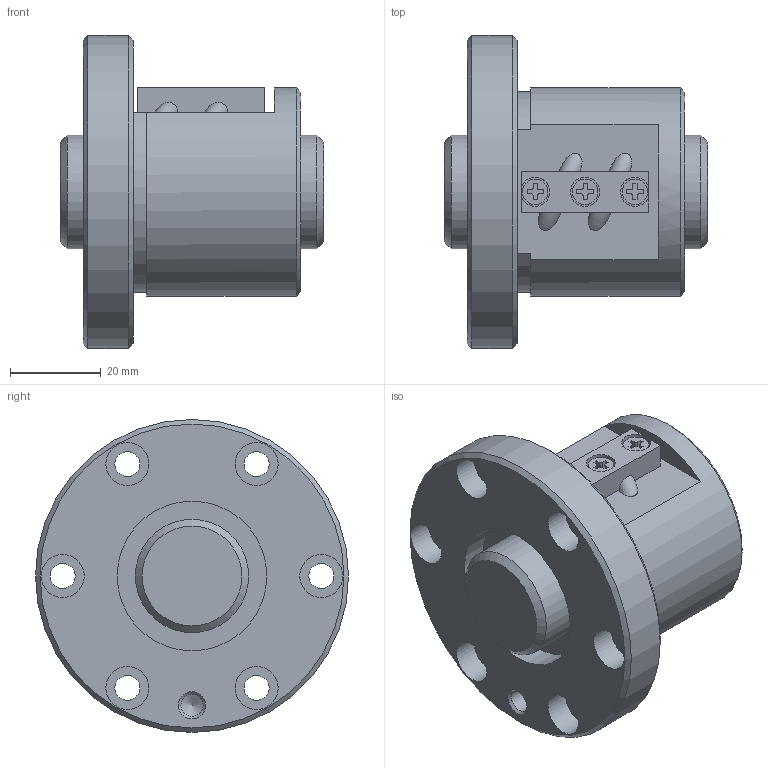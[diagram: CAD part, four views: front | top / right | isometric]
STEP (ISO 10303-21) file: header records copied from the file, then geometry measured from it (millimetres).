
FILE_DESCRIPTION(/* description */ ('STEP AP203'),/* implementation_level */ '2;1');
FILE_NAME(/* name */ 'SBN2504V-5G0+58LC0(0000)',/* time_stamp */ '2024-05-28T10:24:24+02:00',/* author */ ('License CC BY-ND 4.0'),/* organization */ ('CADENAS'),/* preprocessor_version */ 'ST-DEVELOPER v19.3',/* originating_system */ 'PARTsolutions',/* authorisation */ ' ');
FILE_SCHEMA (('CONFIG_CONTROL_DESIGN'));
Length unit declared in the file: millimetre
Products named in the file (3): SBN2504V-5G0+58LC0(0000); N010SBN2504V-50Shaft; N00SBN2504V-5Nut
Assembly tree (2 placements, depth 2):
  SBN2504V-5G0+58LC0(0000)
    N010SBN2504V-50Shaft
    N00SBN2504V-5Nut
Bounding box: 58 x 69 x 69 mm (x, y, z)
Volume: 97247.8 mm3; surface area: 25781.3 mm2
Topology: 2 solids, 2 shells, 121 faces, 285 edges, 188 vertices
Faces by surface type: plane 69, cylinder 41, cone 7, torus 4
Full cylindrical faces by diameter (mm): 4.8 x3, 4.917 x1, 5.5 x6, 5.6 x3, 6.4 x1, 9.5 x6, 25 x2, 33 x2, 46 x1, 69 x1
Entity records: 3461 total; most frequent: CARTESIAN_POINT 641, DIRECTION 578, ORIENTED_EDGE 498, EDGE_CURVE 249, AXIS2_PLACEMENT_3D 213, FACE_BOUND 189, EDGE_LOOP 188, VERTEX_POINT 186
